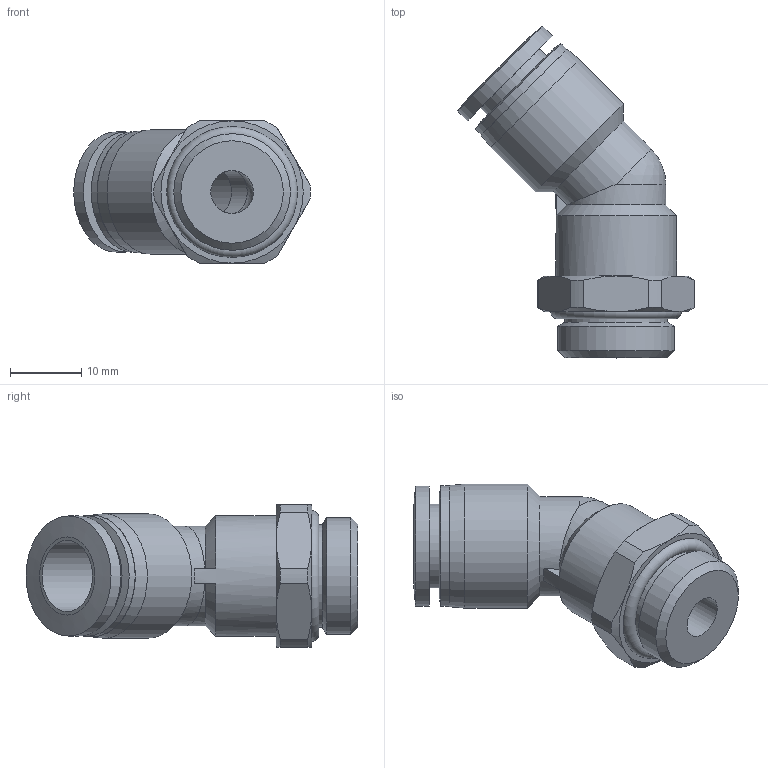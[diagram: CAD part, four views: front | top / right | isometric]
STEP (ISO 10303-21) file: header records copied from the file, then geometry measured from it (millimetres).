
FILE_DESCRIPTION(/* description */ (''),/* implementation_level */ '2;1');
FILE_NAME(/* name */ 'D:\CDC pneumatics\inventor\PL 45\G 나사\PL 45 10-G03.stp',/* time_stamp */ '2015-11-16T16:51:03+09:00',/* author */ ('DIAMOND'),/* organization */ (''),/* preprocessor_version */ 'ST-DEVELOPER v15.6',/* originating_system */ 'Autodesk Inventor 2015',/* authorisation */ '');
FILE_SCHEMA (('AUTOMOTIVE_DESIGN { 1 0 10303 214 3 1 1 }'));
Length unit declared in the file: millimetre
Products named in the file (1): PL 45 10-G03
Bounding box: 33.26 x 46.67 x 20 mm (x, y, z)
Volume: 8106.9 mm3; surface area: 4633.8 mm2
Topology: 1 solids, 1 shells, 58 faces, 125 edges, 75 vertices
Faces by surface type: cone 21, cylinder 18, plane 16, sphere 2, torus 1
Full cylindrical faces by diameter (mm): 6 x2, 10 x1, 11.8 x1, 14 x2, 14.4 x1, 16.4 x1, 16.9 x1, 17 x2, 17.5 x1
Entity records: 1449 total; most frequent: CARTESIAN_POINT 281, DIRECTION 257, ORIENTED_EDGE 208, AXIS2_PLACEMENT_3D 119, EDGE_CURVE 103, EDGE_LOOP 84, VERTEX_POINT 71, FACE_OUTER_BOUND 58
